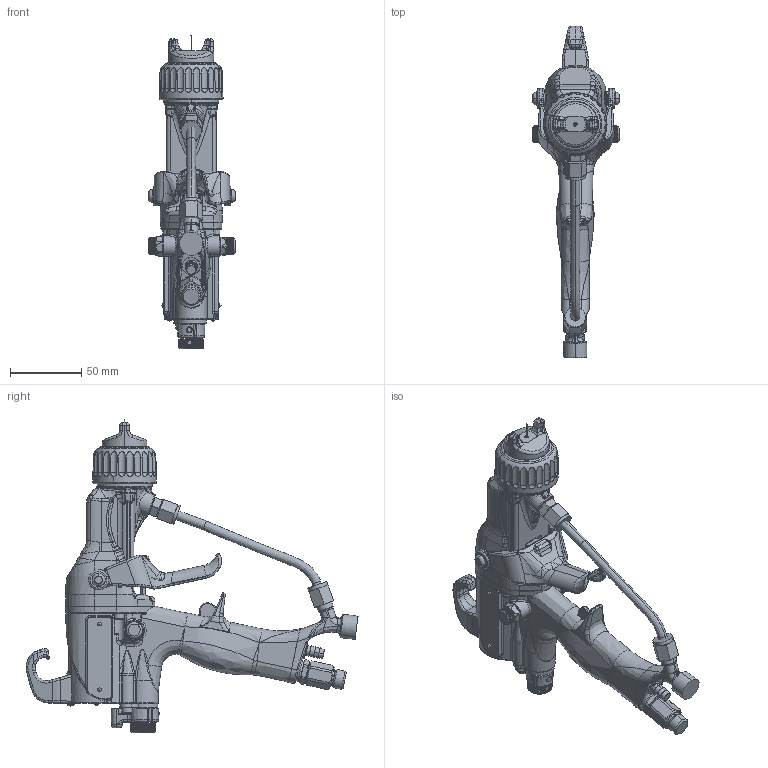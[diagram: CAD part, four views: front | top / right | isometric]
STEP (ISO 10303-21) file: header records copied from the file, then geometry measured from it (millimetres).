
FILE_DESCRIPTION((''),'2;1');
FILE_NAME('L40T10-EN-W_PRT','2020-05-18T18:13:30',('qusrh3'),(''),'CREO PARAMETRIC BY PTC INC, 2019030','CREO PARAMETRIC BY PTC INC, 2019030','');
FILE_SCHEMA(('CONFIG_CONTROL_DESIGN'));
Products named in the file (1): L40T10-EN-W_PRT
Bounding box: 60.96 x 233.22 x 220.37 mm (x, y, z)
Surface area: 83895.4 mm2 (no closed solid volume)
Topology: 0 solids, 60 shells, 2613 faces, 7196 edges, 4503 vertices
Faces by surface type: bspline 834, cylinder 671, plane 577, torus 237, cone 228, sphere 60, extrusion 6
Entity records: 127602 total; most frequent: CARTESIAN_POINT 70059, ORIENTED_EDGE 13089, DIRECTION 9908, EDGE_CURVE 7189, VERTEX_POINT 4503, AXIS2_PLACEMENT_3D 3983, B_SPLINE_CURVE_WITH_KNOTS 3049, EDGE_LOOP 2613
